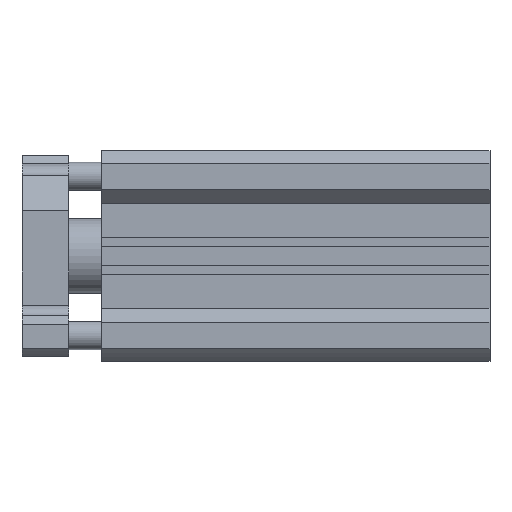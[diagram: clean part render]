
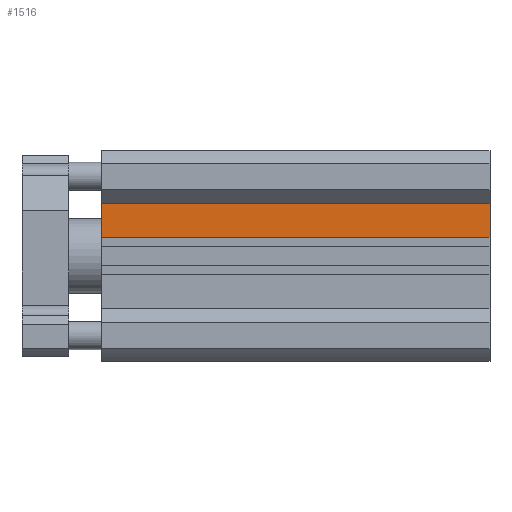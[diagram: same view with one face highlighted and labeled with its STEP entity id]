
A CAD part, front view. The second image highlights one B-rep face of the part: STEP entity #1516.
In plain terms, the highlighted planar face has unit normal (0, -1, 0).
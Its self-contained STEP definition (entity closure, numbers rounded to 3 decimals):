
#118 = DIRECTION ( 'NONE',  ( 0., 0., -1. ) ) ;
#174 = LINE ( 'NONE', #2543, #2552 ) ;
#203 = LINE ( 'NONE', #891, #5038 ) ;
#292 = CARTESIAN_POINT ( 'NONE',  ( 83., -19.5, 4. ) ) ;
#428 = EDGE_CURVE ( 'NONE', #5114, #1543, #2770, .T. ) ;
#671 = EDGE_LOOP ( 'NONE', ( #3768, #2204, #2952, #3918 ) ) ;
#891 = CARTESIAN_POINT ( 'NONE',  ( 83., -19.5, 11.2 ) ) ;
#1167 = DIRECTION ( 'NONE',  ( 0., 1., 0. ) ) ;
#1329 = VERTEX_POINT ( 'NONE', #3396 ) ;
#1395 = EDGE_CURVE ( 'NONE', #2518, #1543, #5021, .T. ) ;
#1410 = VECTOR ( 'NONE', #4709, 1000. ) ;
#1516 = ADVANCED_FACE ( 'NONE', ( #5112 ), #1560, .F. ) ;
#1533 = DIRECTION ( 'NONE',  ( 0., 0., -1. ) ) ;
#1543 = VERTEX_POINT ( 'NONE', #4521 ) ;
#1560 = PLANE ( 'NONE',  #4902 ) ;
#1588 = DIRECTION ( 'NONE',  ( 1., 0., 0. ) ) ;
#1632 = CARTESIAN_POINT ( 'NONE',  ( 0., -19.5, 11.2 ) ) ;
#2204 = ORIENTED_EDGE ( 'NONE', *, *, #428, .F. ) ;
#2485 = DIRECTION ( 'NONE',  ( -1., 0., 0. ) ) ;
#2518 = VERTEX_POINT ( 'NONE', #1632 ) ;
#2543 = CARTESIAN_POINT ( 'NONE',  ( 83., -19.5, 11.2 ) ) ;
#2552 = VECTOR ( 'NONE', #118, 1000. ) ;
#2747 = CARTESIAN_POINT ( 'NONE',  ( 83., -19.5, 4. ) ) ;
#2770 = LINE ( 'NONE', #2747, #1410 ) ;
#2952 = ORIENTED_EDGE ( 'NONE', *, *, #3305, .F. ) ;
#2983 = CARTESIAN_POINT ( 'NONE',  ( 0., -19.5, 11.2 ) ) ;
#3247 = VECTOR ( 'NONE', #1533, 1000. ) ;
#3305 = EDGE_CURVE ( 'NONE', #1329, #5114, #174, .T. ) ;
#3396 = CARTESIAN_POINT ( 'NONE',  ( 83., -19.5, 11.2 ) ) ;
#3423 = EDGE_CURVE ( 'NONE', #1329, #2518, #203, .T. ) ;
#3768 = ORIENTED_EDGE ( 'NONE', *, *, #1395, .T. ) ;
#3918 = ORIENTED_EDGE ( 'NONE', *, *, #3423, .T. ) ;
#4521 = CARTESIAN_POINT ( 'NONE',  ( 0., -19.5, 4. ) ) ;
#4709 = DIRECTION ( 'NONE',  ( -1., 0., 0. ) ) ;
#4902 = AXIS2_PLACEMENT_3D ( 'NONE', #5135, #1167, #1588 ) ;
#5021 = LINE ( 'NONE', #2983, #3247 ) ;
#5038 = VECTOR ( 'NONE', #2485, 1000. ) ;
#5112 = FACE_OUTER_BOUND ( 'NONE', #671, .T. ) ;
#5114 = VERTEX_POINT ( 'NONE', #292 ) ;
#5135 = CARTESIAN_POINT ( 'NONE',  ( 83., -19.5, 11.2 ) ) ;
